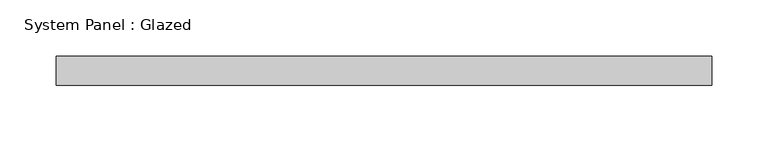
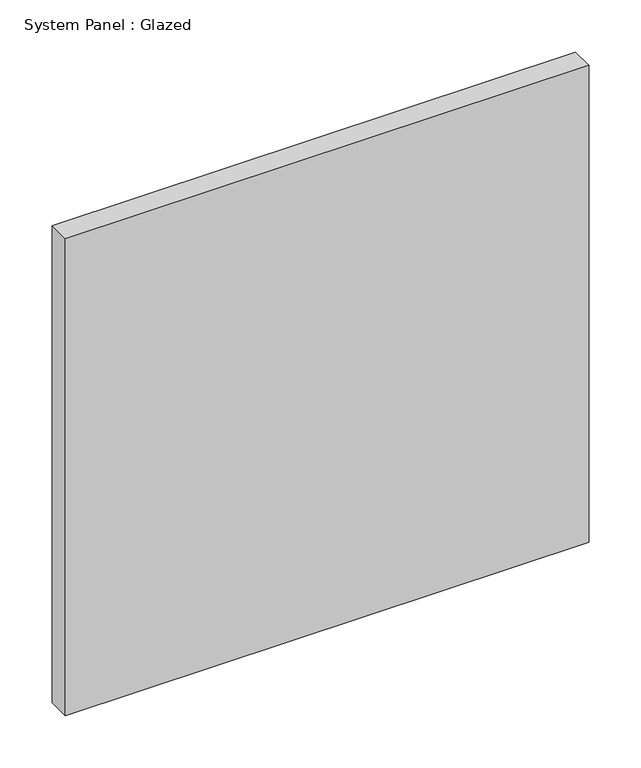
"""IFC4 building model written with IfcOpenShell, lengths in millimetres: plate geometry, System Panel : Glazed."""

from ifc_helpers import new_model, si_unit, origin, origin_with_axes, place, context, project, spatial, polyline, outline, extrude, source, transform, mapped, element, save


def system_panel_glazed_02ab1c72(model_context):
    return source(origin(), model_context, "Body", "SweptSolid", [
        extrude(outline(polyline([(290.0430515, -12.7), (-290.0430515, -12.7), (-290.0430515, 12.7), (290.0430515, 12.7), (290.0430515, -12.7)])), origin_with_axes(), (0.0, 0.0, 1.0), 558.8),
    ])


if __name__ == "__main__":
    model = new_model("IFC4")
    model_context = context("Model", 3, world=origin())
    ifc_project = project(units=[si_unit("LENGTHUNIT", "METRE", prefix="MILLI")], contexts=[model_context])
    site = spatial("IfcSite", under=ifc_project)
    building = spatial("IfcBuilding", under=site)
    placement = place(None, origin())
    system_panel_glazed_shape = system_panel_glazed_02ab1c72(model_context)
    element("IfcPlate", 1, ObjectType="System Panel : Glazed", at=placement, inside=building, context=model_context, shape_type="MappedRepresentation", body=[
        mapped(system_panel_glazed_shape, transform((0.0, 0.0, 0.0), x_axis=(1.0, 0.0, 0.0), y_axis=(0.0, 1.0, 0.0), z_axis=(0.0, 0.0, 1.0))),
    ])
    save(model, "model.ifc")
